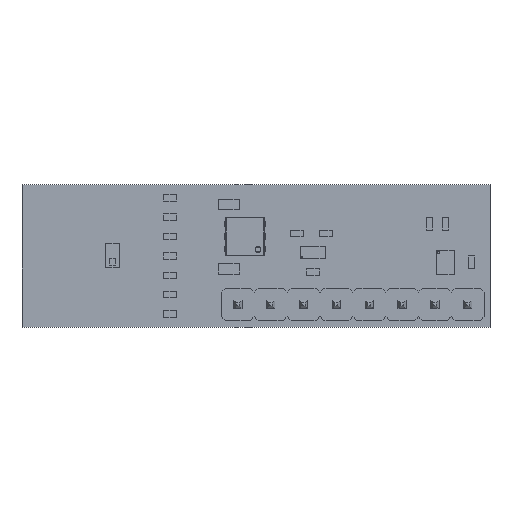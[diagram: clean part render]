
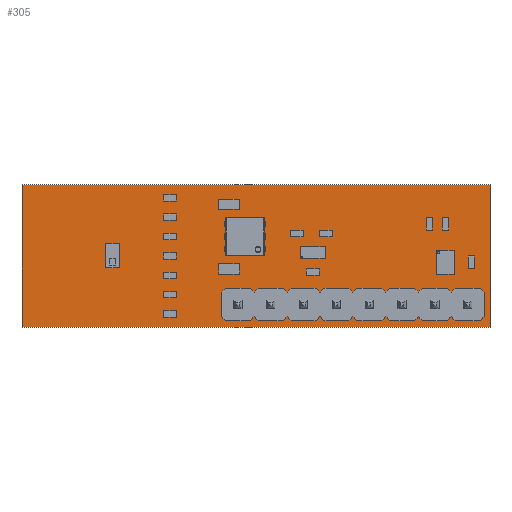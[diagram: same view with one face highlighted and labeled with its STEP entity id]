
A CAD part, top view. The second image highlights one B-rep face of the part: STEP entity #305.
In plain terms, the highlighted planar face has unit normal (0, 0, 1).
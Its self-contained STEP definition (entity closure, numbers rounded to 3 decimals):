
#176 = VERTEX_POINT('',#177);
#177 = CARTESIAN_POINT('',(0.,0.,1.644));
#183 = EDGE_CURVE('',#176,#184,#186,.T.);
#184 = VERTEX_POINT('',#185);
#185 = CARTESIAN_POINT('',(36.2,0.,1.644));
#186 = LINE('',#187,#188);
#187 = CARTESIAN_POINT('',(0.,0.,1.644));
#188 = VECTOR('',#189,1.);
#189 = DIRECTION('',(1.,0.,0.));
#214 = EDGE_CURVE('',#184,#215,#217,.T.);
#215 = VERTEX_POINT('',#216);
#216 = CARTESIAN_POINT('',(36.2,11.,1.644));
#217 = LINE('',#218,#219);
#218 = CARTESIAN_POINT('',(36.2,0.,1.644));
#219 = VECTOR('',#220,1.);
#220 = DIRECTION('',(0.,1.,0.));
#245 = EDGE_CURVE('',#215,#246,#248,.T.);
#246 = VERTEX_POINT('',#247);
#247 = CARTESIAN_POINT('',(0.,11.,1.644));
#248 = LINE('',#249,#250);
#249 = CARTESIAN_POINT('',(36.2,11.,1.644));
#250 = VECTOR('',#251,1.);
#251 = DIRECTION('',(-1.,0.,0.));
#276 = EDGE_CURVE('',#246,#176,#277,.T.);
#277 = LINE('',#278,#279);
#278 = CARTESIAN_POINT('',(0.,11.,1.644));
#279 = VECTOR('',#280,1.);
#280 = DIRECTION('',(0.,-1.,0.));
#305 = ADVANCED_FACE('',(#306),#312,.F.);
#306 = FACE_BOUND('',#307,.T.);
#307 = EDGE_LOOP('',(#308,#309,#310,#311));
#308 = ORIENTED_EDGE('',*,*,#183,.T.);
#309 = ORIENTED_EDGE('',*,*,#214,.T.);
#310 = ORIENTED_EDGE('',*,*,#245,.T.);
#311 = ORIENTED_EDGE('',*,*,#276,.T.);
#312 = PLANE('',#313);
#313 = AXIS2_PLACEMENT_3D('',#314,#315,#316);
#314 = CARTESIAN_POINT('',(0.,0.,1.644));
#315 = DIRECTION('',(0.,0.,-1.));
#316 = DIRECTION('',(-1.,0.,0.));
